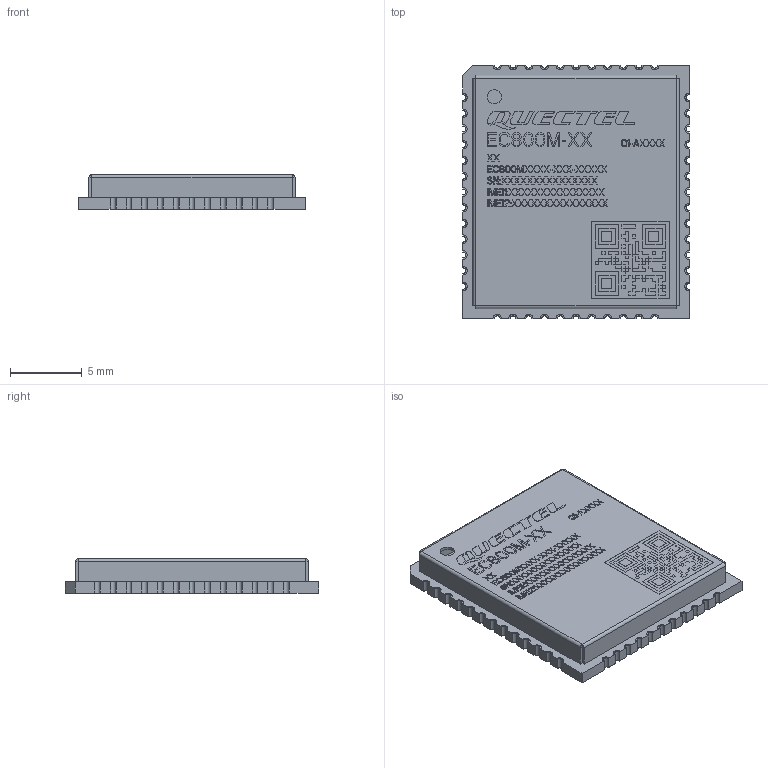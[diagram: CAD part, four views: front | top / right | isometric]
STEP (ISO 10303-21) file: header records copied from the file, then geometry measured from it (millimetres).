
FILE_DESCRIPTION((''),'2;1');
FILE_NAME('EC800M_ASM','2022-04-28T',('cesare.chen'),(''),'CREO PARAMETRIC BY PTC INC, 2014190','CREO PARAMETRIC BY PTC INC, 2014190','');
FILE_SCHEMA(('AUTOMOTIVE_DESIGN { 1 0 10303 214 1 1 1 1 }'));
Products named in the file (3): EC800M_PCB; EC800N_COVER; EC800M_ASM
Assembly tree (2 placements, depth 2):
  EC800M_ASM
    EC800M_PCB
    EC800N_COVER
Bounding box: 15.8 x 17.7 x 2.4 mm (x, y, z)
Volume: 282.9 mm3; surface area: 1267.3 mm2
Topology: 2 solids, 2 shells, 2724 faces, 7447 edges, 4928 vertices
Faces by surface type: plane 2584, cylinder 102, extrusion 38
Entity records: 109697 total; most frequent: CARTESIAN_POINT 15435, ORIENTED_EDGE 14894, DIRECTION 12995, PRESENTATION_STYLE_ASSIGNMENT 7693, STYLED_ITEM 7515, CURVE_STYLE 7447, EDGE_CURVE 7447, VECTOR 7205
